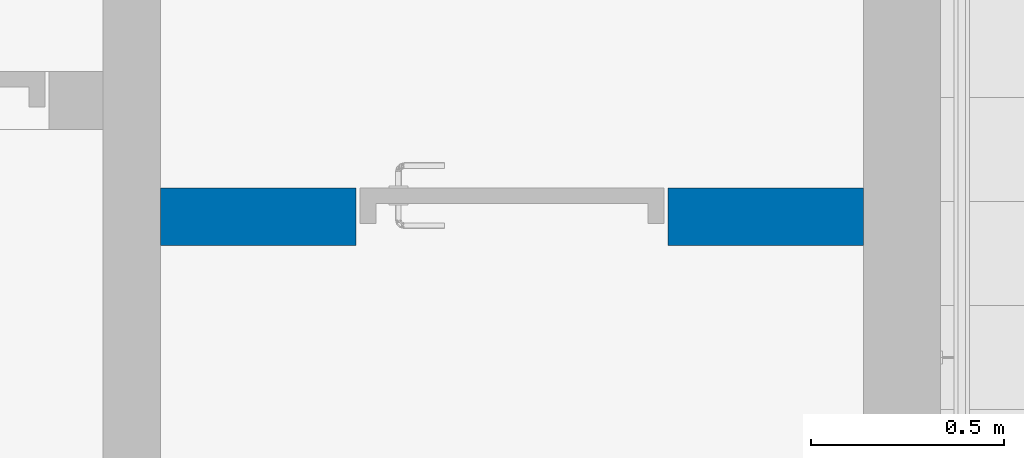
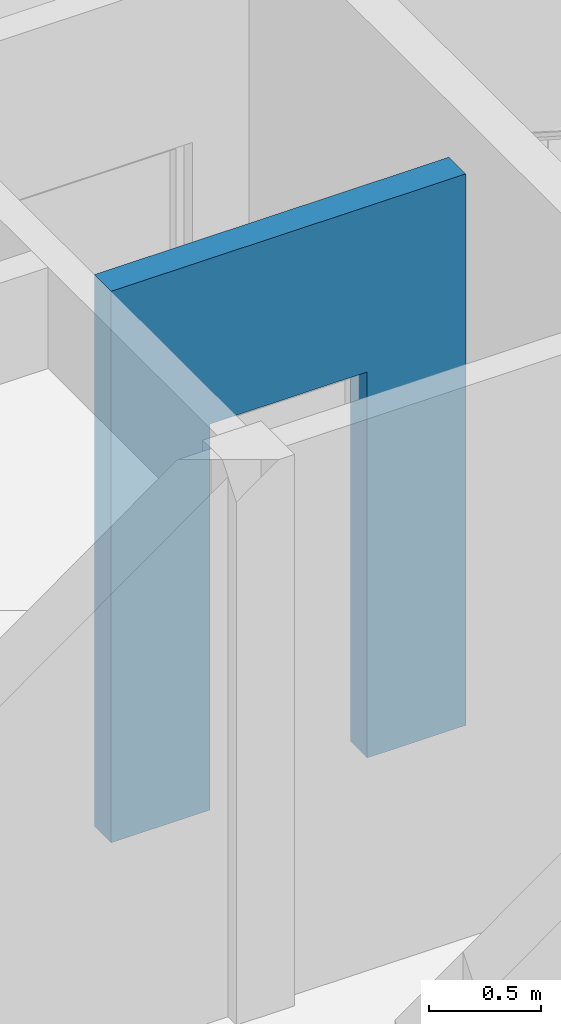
# One storey, part 14 of 58: 1 wall, 1 opening.
"""IFC2X3 building model written with IfcOpenShell, lengths in millimetres."""

from ifc_helpers import new_model, entity, si_unit, converted_unit, derived_unit, direction, frame, frame_2d, origin, place, context, subcontext, project, spatial, rectangle, extrude, material, layer, layer_set, layer_usage, type_object, element, save


model = new_model("IFC2X3")

# Units and contexts
model_context = context("Model", 3, precision=0.01, world=origin(), true_north=direction((0.7716245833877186, 0.6360782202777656)))
body_context = subcontext(model_context, "Body", "Model", "MODEL_VIEW")
ifc_project = project(units=[si_unit("LENGTHUNIT", "METRE", prefix="MILLI"), si_unit("AREAUNIT", "SQUARE_METRE"), converted_unit("PLANEANGLEUNIT", "DEGREE", entity("IfcPlaneAngleMeasure", 0.017453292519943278), si_unit("PLANEANGLEUNIT", "RADIAN"), dimensions=[0, 0, 0, 0, 0, 0, 0]), derived_unit("THERMALTRANSMITTANCEUNIT", [(si_unit("MASSUNIT", "GRAM", prefix="KILO"), 1), (si_unit("THERMODYNAMICTEMPERATUREUNIT", "KELVIN"), -1), (si_unit("TIMEUNIT", "SECOND"), -3)])], contexts=[model_context])

# Site, building, storey
site_placement = place(None, origin())
site = spatial("IfcSite", under=ifc_project, at=site_placement, Name="Default", CompositionType="ELEMENT")
building_placement = place(site_placement, origin())
building = spatial("IfcBuilding", under=site, at=building_placement, CompositionType="ELEMENT")
storey_placement = place(building_placement, frame((0.0, 0.0, 31140.0)))
storey = spatial("IfcBuildingStorey", under=building, at=storey_placement, Name="PLAN U1", CompositionType="ELEMENT", Elevation=31140.000000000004)

# Wall, opening
ifc_material = material(Name="Eksist. vegg")
ifc_layer = layer(ifc_material, 150.0)
ifc_layer_set = layer_set([ifc_layer], Name="Basic Wall:240 Eksist. Innervegg 150 mm")
ifc_layer_usage = layer_usage(ifc_layer_set, "AXIS2", "NEGATIVE", 75.0)
wall_type = type_object("IfcWallType", Name="Basic Wall:240 Eksist. Innervegg 150 mm", PredefinedType="STANDARD", material=ifc_layer_set)
wall_placement = place(storey_placement, frame((265992.924446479, 60745.72307172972, 0.0)))
wall = element("IfcWallStandardCase", 1, at=wall_placement, inside=storey, type_object=wall_type, material=ifc_layer_usage, Name="Basic Wall:240 Eksist. Innervegg 150 mm", ObjectType="Basic Wall:240 Eksist. Innervegg 150 mm", context=body_context, shape_type="SweptSolid", body=[
    extrude(rectangle(XDim=1825.000000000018, YDim=150.00000000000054, at=frame_2d((912.5000000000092, 0.0), x_axis=(1.0, 0.0))), origin(), (0.0, 0.0, 1.0), 2999.9999999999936),
])
opening_placement = place(wall_placement, frame((507.4999999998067, -75.0, 0.0)))
element("IfcOpeningElement", 2, at=opening_placement, cuts=wall, Name="Enfløyet:2441 Innvendig 8x21M:1", ObjectType="Opening", context=body_context, shape_type="SweptSolid", body=[
    extrude(rectangle(XDim=2100.0, YDim=810.0, at=frame_2d((1049.9999999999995, 405.0), x_axis=(1.0, 0.0))), frame((0.0, 0.0, 0.0), z_axis=(0.0, 1.0, 0.0), x_axis=(0.0, 0.0, 1.0)), (0.0, 0.0, 1.0), 150.0),
])

save(model, "model.ifc")
